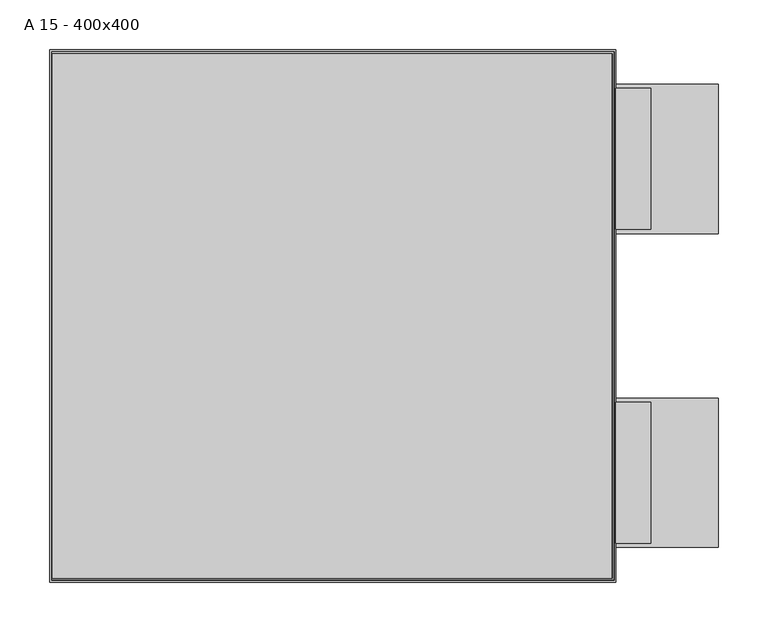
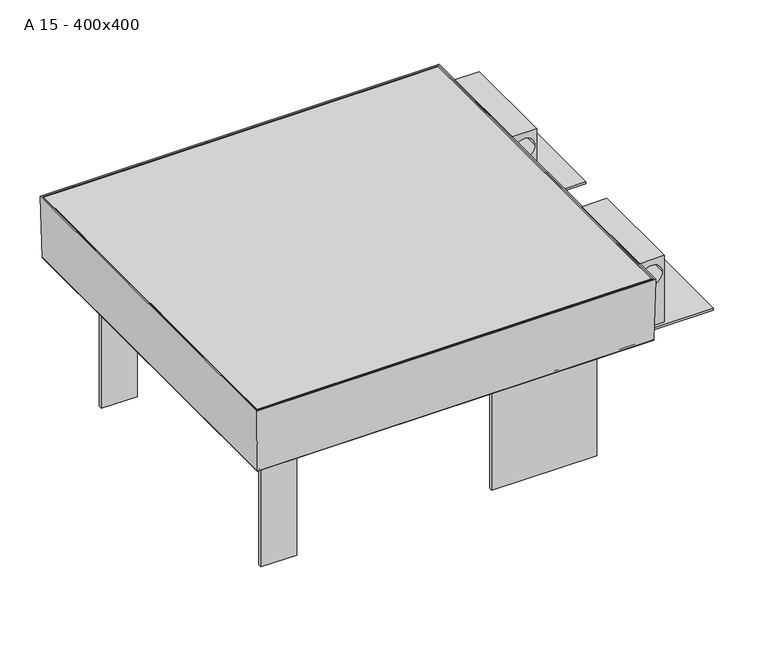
"""IFC4 building model written with IfcOpenShell, lengths in millimetres: proxy geometry, ME_ST_WPB_Access Cover PAVING ASSIST GS 80_ACO : A 15 - 400x400."""

from ifc_helpers import new_model, si_unit, point, frame, frame_2d, origin, place, context, project, spatial, polyline, circle_curve, ellipse_curve, trimmed, segment, composite_curve, outline, extrude, source, transform, mapped, element, save
from ifc_brep_helpers import plane_surface, cylinder_surface, revolved_surface, advanced_brep


def a_15_400x400_4f975222(model_context):
    return source(origin(), model_context, "Body", "SolidModel", [
        extrude(outline(polyline([(238.0, -82.7888671), (388.0, -82.7888671), (388.0, -233.0), (238.0, -233.0), (238.0, -82.7888671)])), frame((0.0, 0.0, -104.0), z_axis=(0.0, 0.0, 1.0), x_axis=(1.0, 0.0, 0.0)), (0.0, 0.0, 1.0), 3.0),
        extrude(outline(polyline([(0.0, 320.0), (0.0, 285.0), (-101.0, 285.0), (-101.0, 320.0), (0.0, 320.0)]), holes=[composite_curve([segment(trimmed(circle_curve(frame_2d((-23.8203371, 302.4245301)), 15.0), [point((-23.8203371, 287.4245301))], [point((-23.8203371, 317.4245301))], True, "CARTESIAN"), True, "CONTINUOUS"), segment(trimmed(circle_curve(frame_2d((-23.8203371, 302.4245301)), 15.0), [point((-23.8203371, 317.4245301))], [point((-23.8203371, 287.4245301))], True, "CARTESIAN"), True, "CONTINUOUS")], self_intersect=False)]), frame((0.0, -228.6519206, 0.0), z_axis=(0.0, 1.0, 0.0), x_axis=(0.0, 0.0, 1.0)), (0.0, 0.0, 1.0), 142.0),
        extrude(outline(polyline([(238.0, 233.0), (388.0, 233.0), (388.0, 82.7888671), (238.0, 82.7888671), (238.0, 233.0)])), frame((0.0, 0.0, -104.0), z_axis=(0.0, 0.0, 1.0), x_axis=(1.0, 0.0, 0.0)), (0.0, 0.0, 1.0), 3.0),
        extrude(outline(polyline([(0.0, 320.0), (0.0, 285.0), (-101.0, 285.0), (-101.0, 320.0), (0.0, 320.0)]), holes=[composite_curve([segment(trimmed(circle_curve(frame_2d((-23.8203371, 302.4245301)), 15.0), [point((-23.8203371, 287.4245301))], [point((-23.8203371, 317.4245301))], True, "CARTESIAN"), True, "CONTINUOUS"), segment(trimmed(circle_curve(frame_2d((-23.8203371, 302.4245301)), 15.0), [point((-23.8203371, 317.4245301))], [point((-23.8203371, 287.4245301))], True, "CARTESIAN"), True, "CONTINUOUS")], self_intersect=False)]), frame((0.0, 87.1369465, 0.0), z_axis=(0.0, 1.0, 0.0), x_axis=(0.0, 0.0, 1.0)), (0.0, 0.0, 1.0), 142.0),
        extrude(outline(polyline([(-190.0, 67.5), (-185.0, 67.5), (-185.0, 2.5), (185.0, 2.5), (185.0, 67.5), (190.0, 67.5), (190.0, -67.5), (185.0, -67.5), (185.0, -2.5), (-185.0, -2.5), (-185.0, -67.5), (-190.0, -67.5), (-190.0, 67.5)])), frame((0.0, 0.0, -134.0), z_axis=(0.0, 0.0, 1.0), x_axis=(1.0, 0.0, 0.0)), (0.0, 0.0, 1.0), 30.0),
        extrude(outline(polyline([(-282.3953955, -208.9987388), (-282.3953955, 208.9987388), (-282.3953955, 263.9987388), (-227.3953955, 263.9987388), (225.9987388, 263.9987388), (280.9987388, 263.9987388), (280.9987388, 208.9987388), (280.9987388, -208.9987388), (280.9987388, -263.9987388), (225.9987388, -263.9987388), (-227.3953955, -263.9987388), (-282.3953955, -263.9987388), (-282.3953955, -208.9987388)])), frame((0.0, 0.0, -5.0), z_axis=(0.0, 0.0, 1.0), x_axis=(1.0, 0.0, 0.0)), (0.0, 0.0, 1.0), 5.0),
        advanced_brep(
        [(-215.5, 198.5, -76.8748363), (-215.5, -198.5, -76.8748363), (215.5, -198.5, -76.8748363), (215.5, 198.5, -76.8748363), (278.9605243, 261.9605243, -80.0), (278.9605243, -261.9605243, -80.0), (-278.9605243, -261.9605243, -80.0), (-278.9605243, 261.9605243, -80.0), (-215.5, 198.5, -77.9987834), (-215.5, -198.5, -77.9987834), (215.5, -198.5, -77.9987834), (215.5, 198.5, -77.9987834), (280.2486912, 263.2486912, -78.7973005), (280.2486912, -263.2486912, -78.7973005), (278.3145448, 261.3145448, -76.8748363), (277.1900014, 260.1900014, -77.9987834), (277.1900014, -260.1900014, -77.9987834), (278.3145448, -261.3145448, -76.8748363), (280.9987388, -263.9987388, 0.0), (280.9987388, 263.9987388, 0.0), (283.0000107, 266.0000107, 0.0), (283.0000107, -266.0000107, 0.0), (-280.2486912, -263.2486912, -78.7973005), (-277.1900014, -260.1900014, -77.9987834), (-278.3145448, -261.3145448, -76.8748363), (-280.9987388, -263.9987388, 0.0), (-283.0000107, -266.0000107, 0.0), (-280.2486912, 263.2486912, -78.7973005), (-277.1900014, 260.1900014, -77.9987834), (-278.3145448, 261.3145448, -76.8748363), (-280.9987388, 263.9987388, 0.0), (-283.0000107, 266.0000107, 0.0)],
        [
            (0, 1),
            (1, 2),
            (2, 3),
            (3, 0),
            (4, 5),
            (5, 6),
            (6, 7),
            (7, 4),
            (0, 8),
            (8, 9),
            (9, 1),
            (9, 10),
            (10, 2),
            (10, 11),
            (11, 3),
            (11, 8),
            (4, 12, ellipse_curve(frame((278.9605243, 261.9605243, -78.7087963), z_axis=(0.7071067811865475, -0.7071067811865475, 0.0), x_axis=(0.7071067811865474, 0.7071067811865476, 0.0)), 1.8260378, 1.2912037)),
            (12, 13),
            (13, 5, ellipse_curve(frame((278.9605243, -261.9605243, -78.7087963), z_axis=(0.7071067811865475, 0.7071067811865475, 0.0), x_axis=(-0.7071067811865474, 0.7071067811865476, 0.0)), 1.8260378, 1.2912037)),
            (14, 15, ellipse_curve(frame((277.0254138, 260.0254138, -76.7095649), z_axis=(-0.7071067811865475, 0.7071067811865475, 0.0), x_axis=(-0.7071067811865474, -0.7071067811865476, 0.0)), 1.838028, 1.2996821)),
            (15, 16),
            (16, 17, ellipse_curve(frame((277.0254138, -260.0254138, -76.7095649), z_axis=(-0.7071067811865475, -0.7071067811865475, 0.0), x_axis=(0.7071067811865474, -0.7071067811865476, 0.0)), 1.838028, 1.2996821)),
            (17, 14),
            (17, 18),
            (18, 19),
            (19, 14),
            (12, 20),
            (20, 21),
            (21, 13),
            (13, 22),
            (22, 6, ellipse_curve(frame((-278.9605243, -261.9605243, -78.7087963), z_axis=(0.7071067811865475, -0.7071067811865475, 0.0), x_axis=(0.7071067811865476, 0.7071067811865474, 0.0)), 1.8260378, 1.2912037)),
            (16, 23),
            (23, 24, ellipse_curve(frame((-277.0254138, -260.0254138, -76.7095649), z_axis=(-0.7071067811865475, 0.7071067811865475, 0.0), x_axis=(-0.7071067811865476, -0.7071067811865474, 0.0)), 1.838028, 1.2996821)),
            (24, 17),
            (24, 25),
            (25, 18),
            (21, 26),
            (26, 22),
            (22, 27),
            (27, 7, ellipse_curve(frame((-278.9605243, 261.9605243, -78.7087963), z_axis=(-0.7071067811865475, -0.7071067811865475, 0.0), x_axis=(0.7071067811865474, -0.7071067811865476, 0.0)), 1.8260378, 1.2912037)),
            (23, 28),
            (28, 29, ellipse_curve(frame((-277.0254138, 260.0254138, -76.7095649), z_axis=(0.7071067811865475, 0.7071067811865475, 0.0), x_axis=(-0.7071067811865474, 0.7071067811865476, 0.0)), 1.838028, 1.2996821)),
            (29, 24),
            (29, 30),
            (30, 25),
            (26, 31),
            (31, 27),
            (27, 12),
            (15, 28),
            (14, 29),
            (19, 30),
            (20, 31),
        ],
        [
            plane_surface(frame((-215.5, -198.5, -76.8748363), z_axis=(0.0, 0.0, 1.0), x_axis=(0.0, -1.0, 0.0))),
            plane_surface(frame((-215.5, -198.5, -80.0), z_axis=(0.0, 0.0, -1.0), x_axis=(0.0, 1.0, 0.0))),
            plane_surface(frame((-215.5, 198.5, -76.8748363), z_axis=(-1.0, 0.0, 0.0), x_axis=(0.0, 0.0, -1.0))),
            plane_surface(frame((-215.5, -198.5, -76.8748363), z_axis=(0.0, -1.0, 0.0), x_axis=(0.0, 0.0, -1.0))),
            plane_surface(frame((215.5, -198.5, -76.8748363), z_axis=(1.0, 0.0, 0.0), x_axis=(0.0, 0.0, -1.0))),
            plane_surface(frame((215.5, 198.5, -76.8748363), z_axis=(0.0, 1.0, 0.0), x_axis=(0.0, 0.0, -1.0))),
            cylinder_surface(frame((278.9605243, 266.0, -78.7087963), z_axis=(0.0, 1.0, 0.0), x_axis=(1.0, 0.0, 0.0)), 1.2912037),
            revolved_surface(polyline([(278.3250959, -261.3250958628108, -76.7095649), (278.3250959, 261.32509586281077, -76.7095649)]), (277.0254138, 266.0, -76.7095649), (0.0, -1.0, 0.0)),
            plane_surface(frame((278.3145448, 261.3145448, -76.8748363), z_axis=(-0.9993909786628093, 0.0, 0.03489515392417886), x_axis=(0.0, -1.0, 0.0))),
            plane_surface(frame((283.0000107, 266.0000107, 0.0), z_axis=(0.9993909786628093, 0.0, -0.03489515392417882), x_axis=(0.0, -1.0, 0.0))),
            cylinder_surface(frame((283.0, -261.9605243, -78.7087963), z_axis=(1.0, 0.0, 0.0), x_axis=(0.0, -1.0, 0.0)), 1.2912037),
            revolved_surface(polyline([(-278.3250958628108, -261.3250959, -76.7095649), (278.32509586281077, -261.3250959, -76.7095649)]), (283.0, -260.0254138, -76.7095649), (-1.0, 0.0, 0.0)),
            plane_surface(frame((278.3145448, -261.3145448, -76.8748363), z_axis=(0.0, 0.9993909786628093, 0.03489515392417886), x_axis=(-1.0, 0.0, 0.0))),
            plane_surface(frame((283.0000107, -266.0000107, 0.0), z_axis=(0.0, -0.9993909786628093, -0.03489515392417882), x_axis=(-1.0, 0.0, 0.0))),
            cylinder_surface(frame((-278.9605243, -266.0, -78.7087963), z_axis=(0.0, -1.0, 0.0), x_axis=(-1.0, 0.0, 0.0)), 1.2912037),
            revolved_surface(polyline([(-278.3250959, 261.3250958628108, -76.7095649), (-278.3250959, -261.32509586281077, -76.7095649)]), (-277.0254138, -266.0, -76.7095649), (0.0, 1.0, 0.0)),
            plane_surface(frame((-278.3145448, -261.3145448, -76.8748363), z_axis=(0.9993909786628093, 0.0, 0.03489515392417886), x_axis=(0.0, 1.0, 0.0))),
            plane_surface(frame((-283.0000107, -266.0000107, 0.0), z_axis=(-0.9993909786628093, 0.0, -0.03489515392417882), x_axis=(0.0, 1.0, 0.0))),
            cylinder_surface(frame((-283.0, 261.9605243, -78.7087963), z_axis=(-1.0, 0.0, 0.0), x_axis=(0.0, 1.0, 0.0)), 1.2912037),
            plane_surface(frame((-247.6109139, 230.6109139, -77.9987834), z_axis=(0.0, 0.0, 1.0), x_axis=(1.0, 0.0, 0.0))),
            revolved_surface(polyline([(278.3250958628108, 261.3250959, -76.7095649), (-278.32509586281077, 261.3250959, -76.7095649)]), (-283.0, 260.0254138, -76.7095649), (1.0, 0.0, 0.0)),
            plane_surface(frame((-278.3145448, 261.3145448, -76.8748363), z_axis=(0.0, -0.9993909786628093, 0.03489515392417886), x_axis=(1.0, 0.0, 0.0))),
            plane_surface(frame((-280.9987388, 263.9987388, 0.0), z_axis=(0.0, 0.0, 1.0), x_axis=(1.0, 0.0, 0.0))),
            plane_surface(frame((-283.0000107, 266.0000107, 0.0), z_axis=(0.0, 0.9993909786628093, -0.03489515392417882), x_axis=(1.0, 0.0, 0.0))),
        ],
        [
            (0, [[1, 2, 3, 4]]),
            (1, [[5, 6, 7, 8]]),
            (2, [[-1, 9, 10, 11]]),
            (3, [[-2, -11, 12, 13]]),
            (4, [[-3, -13, 14, 15]]),
            (5, [[-4, -15, 16, -9]]),
            (6, [[17, 18, 19, -5]]),
            (7, [[20, 21, 22, 23]]),
            (8, [[-23, 24, 25, 26]]),
            (9, [[-18, 27, 28, 29]]),
            (10, [[-19, 30, 31, -6]]),
            (11, [[-22, 32, 33, 34]]),
            (12, [[-24, -34, 35, 36]]),
            (13, [[-29, 37, 38, -30]]),
            (14, [[-31, 39, 40, -7]]),
            (15, [[-33, 41, 42, 43]]),
            (16, [[-35, -43, 44, 45]]),
            (17, [[-38, 46, 47, -39]]),
            (18, [[-17, -8, -40, 48]]),
            (19, [[-21, 49, -41, -32], [-10, -16, -14, -12]]),
            (20, [[-20, 50, -42, -49]]),
            (21, [[-26, 51, -44, -50]]),
            (22, [[-28, 52, -46, -37], [-25, -36, -45, -51]]),
            (23, [[-27, -48, -47, -52]]),
        ],
    ),
        advanced_brep(
        [(282.0603915, 265.0603915, -93.0), (283.3814929, 266.3814929, -91.7973005), (283.3814929, -266.3814929, -91.7973005), (282.0603915, -265.0603915, -93.0), (249.491936, 232.491936, -93.5068236), (250.3495131, 233.3495131, -93.0), (250.3495131, -233.3495131, -93.0), (249.491936, -232.491936, -93.5068236), (239.5430631, 222.5430631, -103.4568727), (239.5430631, -222.5430631, -103.4568727), (238.5631773, 221.5631773, -104.0), (238.5631773, -221.5631773, -104.0), (217.0, 200.0, -102.0), (219.0, 202.0, -104.0), (219.0, -202.0, -104.0), (217.0, -200.0, -102.0), (217.0, 200.0, -91.0), (217.0, -200.0, -91.0), (219.0, 202.0, -91.0), (219.0, -202.0, -91.0), (219.0, -202.0, -100.1412819), (219.0, 202.0, -100.1412819), (220.5596496, 203.5596496, -102.0), (220.5596496, -203.5596496, -102.0), (238.6238392, 221.6238392, -101.5476755), (237.8710448, 220.8710448, -102.0), (237.8710448, -220.8710448, -102.0), (238.6238392, -221.6238392, -101.5476755), (248.7056833, 231.7056833, -91.4646396), (248.7056833, -231.7056833, -91.4646396), (249.6109139, 232.6109139, -90.9987834), (249.6109139, -232.6109139, -90.9987834), (281.414412, 264.414412, -89.9085487), (280.2898686, 263.2898686, -90.9987834), (280.2898686, -263.2898686, -90.9987834), (281.414412, -264.414412, -89.9085487), (282.9987388, 265.9987388, 0.0), (282.9987388, -265.9987388, 0.0), (284.9991024, 267.9991024, 0.0), (284.9991024, -267.9991024, 0.0), (-283.3814929, -266.3814929, -91.7973005), (-282.0603915, -265.0603915, -93.0), (-250.3495131, -233.3495131, -93.0), (-249.491936, -232.491936, -93.5068236), (-239.5430631, -222.5430631, -103.4568727), (-238.5631773, -221.5631773, -104.0), (-219.0, -202.0, -104.0), (-217.0, -200.0, -102.0), (-217.0, -200.0, -91.0), (-219.0, -202.0, -91.0), (-219.0, -202.0, -100.1412819), (-220.5596496, -203.5596496, -102.0), (-237.8710448, -220.8710448, -102.0), (-238.6238392, -221.6238392, -101.5476755), (-248.7056833, -231.7056833, -91.4646396), (-249.6109139, -232.6109139, -90.9987834), (-280.2898686, -263.2898686, -90.9987834), (-281.414412, -264.414412, -89.9085487), (-282.9987388, -265.9987388, 0.0), (-284.9991024, -267.9991024, 0.0), (-283.3814929, 266.3814929, -91.7973005), (-282.0603915, 265.0603915, -93.0), (-250.3495131, 233.3495131, -93.0), (-249.491936, 232.491936, -93.5068236), (-239.5430631, 222.5430631, -103.4568727), (-238.5631773, 221.5631773, -104.0), (-219.0, 202.0, -104.0), (-217.0, 200.0, -102.0), (-217.0, 200.0, -91.0), (-219.0, 202.0, -91.0), (-219.0, 202.0, -100.1412819), (-220.5596496, 203.5596496, -102.0), (-237.8710448, 220.8710448, -102.0), (-238.6238392, 221.6238392, -101.5476755), (-248.7056833, 231.7056833, -91.4646396), (-249.6109139, 232.6109139, -90.9987834), (-280.2898686, 263.2898686, -90.9987834), (-281.414412, 264.414412, -89.9085487), (-282.9987388, 265.9987388, 0.0), (-284.9991024, 267.9991024, 0.0)],
        [
            (0, 1, ellipse_curve(frame((282.0603915, 265.0603915, -91.6730704), z_axis=(0.7071067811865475, -0.7071067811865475, 0.0), x_axis=(0.7071067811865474, 0.7071067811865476, 0.0)), 1.8765619, 1.3269296)),
            (1, 2),
            (2, 3, ellipse_curve(frame((282.0603915, -265.0603915, -91.6730704), z_axis=(0.7071067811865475, 0.7071067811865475, 0.0), x_axis=(-0.7071067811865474, 0.7071067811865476, 0.0)), 1.8765619, 1.3269296)),
            (3, 0),
            (4, 5, ellipse_curve(frame((250.9062332, 233.9062332, -94.9209536), z_axis=(-0.7071067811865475, 0.7071067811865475, 0.0), x_axis=(-0.7071067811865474, -0.7071067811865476, 0.0)), 2.8284271, 2.0)),
            (5, 6),
            (6, 7, ellipse_curve(frame((250.9062332, -233.9062332, -94.9209536), z_axis=(-0.7071067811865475, -0.7071067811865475, 0.0), x_axis=(0.7071067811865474, -0.7071067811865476, 0.0)), 2.8284271, 2.0)),
            (7, 4),
            (8, 4),
            (7, 9),
            (9, 8),
            (10, 8, ellipse_curve(frame((237.0169048, 220.0169048, -100.0547885), z_axis=(0.7071067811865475, -0.7071067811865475, 0.0), x_axis=(0.7071067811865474, 0.7071067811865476, 0.0)), 5.9926042, 4.237411)),
            (9, 11, ellipse_curve(frame((237.0169048, -220.0169048, -100.0547885), z_axis=(0.7071067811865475, 0.7071067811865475, 0.0), x_axis=(-0.7071067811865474, 0.7071067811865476, 0.0)), 5.9926042, 4.237411)),
            (11, 10),
            (12, 13, ellipse_curve(frame((220.5491099, 203.5491099, -100.4508901), z_axis=(0.7071067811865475, -0.7071067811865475, 0.0), x_axis=(0.7071067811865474, 0.7071067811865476, 0.0)), 5.4764811, 3.872457)),
            (13, 14),
            (14, 15, ellipse_curve(frame((220.5491099, -203.5491099, -100.4508901), z_axis=(0.7071067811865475, 0.7071067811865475, 0.0), x_axis=(-0.7071067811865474, 0.7071067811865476, 0.0)), 5.4764811, 3.872457)),
            (15, 12),
            (16, 12),
            (15, 17),
            (17, 16),
            (18, 19),
            (19, 20),
            (20, 21),
            (21, 18),
            (22, 21, ellipse_curve(frame((220.9978512, 203.9978512, -100.0485955), z_axis=(-0.7071067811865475, 0.7071067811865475, 0.0), x_axis=(-0.7071067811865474, -0.7071067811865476, 0.0)), 2.8284271, 2.0)),
            (20, 23, ellipse_curve(frame((220.9978512, -203.9978512, -100.0485955), z_axis=(-0.7071067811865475, -0.7071067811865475, 0.0), x_axis=(0.7071067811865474, -0.7071067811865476, 0.0)), 2.8284271, 2.0)),
            (23, 22),
            (24, 25, ellipse_curve(frame((237.2425005, 220.2425005, -100.1013342), z_axis=(-0.7071067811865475, 0.7071067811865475, 0.0), x_axis=(-0.7071067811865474, -0.7071067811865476, 0.0)), 2.8284271, 2.0)),
            (25, 26),
            (26, 27, ellipse_curve(frame((237.2425005, -220.2425005, -100.1013342), z_axis=(-0.7071067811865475, -0.7071067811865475, 0.0), x_axis=(0.7071067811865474, -0.7071067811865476, 0.0)), 2.8284271, 2.0)),
            (27, 24),
            (28, 24),
            (27, 29),
            (29, 28),
            (30, 28, ellipse_curve(frame((249.9486156, 232.9486156, -92.7674195), z_axis=(0.7071067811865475, -0.7071067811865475, 0.0), x_axis=(0.7071067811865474, 0.7071067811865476, 0.0)), 2.5464155, 1.8005877)),
            (29, 31, ellipse_curve(frame((249.9486156, -232.9486156, -92.7674195), z_axis=(0.7071067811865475, 0.7071067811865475, 0.0), x_axis=(-0.7071067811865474, 0.7071067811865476, 0.0)), 2.5464155, 1.8005877)),
            (31, 30),
            (32, 33, ellipse_curve(frame((280.125281, 263.125281, -89.7039331), z_axis=(-0.7071067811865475, 0.7071067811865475, 0.0), x_axis=(-0.7071067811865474, -0.7071067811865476, 0.0)), 1.8459287, 1.3052687)),
            (33, 34),
            (34, 35, ellipse_curve(frame((280.125281, -263.125281, -89.7039331), z_axis=(-0.7071067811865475, -0.7071067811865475, 0.0), x_axis=(0.7071067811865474, -0.7071067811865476, 0.0)), 1.8459287, 1.3052687)),
            (35, 32),
            (36, 32),
            (35, 37),
            (37, 36),
            (1, 38),
            (38, 39),
            (39, 2),
            (2, 40),
            (40, 41, ellipse_curve(frame((-282.0603915, -265.0603915, -91.6730704), z_axis=(0.7071067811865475, -0.7071067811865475, 0.0), x_axis=(0.7071067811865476, 0.7071067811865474, 0.0)), 1.8765619, 1.3269296)),
            (41, 3),
            (6, 42),
            (42, 43, ellipse_curve(frame((-250.9062332, -233.9062332, -94.9209536), z_axis=(-0.7071067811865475, 0.7071067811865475, 0.0), x_axis=(-0.7071067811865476, -0.7071067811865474, 0.0)), 2.8284271, 2.0)),
            (43, 7),
            (43, 44),
            (44, 9),
            (44, 45, ellipse_curve(frame((-237.0169048, -220.0169048, -100.0547885), z_axis=(0.7071067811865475, -0.7071067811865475, 0.0), x_axis=(0.7071067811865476, 0.7071067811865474, 0.0)), 5.9926042, 4.237411)),
            (45, 11),
            (14, 46),
            (46, 47, ellipse_curve(frame((-220.5491099, -203.5491099, -100.4508901), z_axis=(0.7071067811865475, -0.7071067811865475, 0.0), x_axis=(0.7071067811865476, 0.7071067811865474, 0.0)), 5.4764811, 3.872457)),
            (47, 15),
            (47, 48),
            (48, 17),
            (19, 49),
            (49, 50),
            (50, 20),
            (50, 51, ellipse_curve(frame((-220.9978512, -203.9978512, -100.0485955), z_axis=(-0.7071067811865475, 0.7071067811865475, 0.0), x_axis=(-0.7071067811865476, -0.7071067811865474, 0.0)), 2.8284271, 2.0)),
            (51, 23),
            (26, 52),
            (52, 53, ellipse_curve(frame((-237.2425005, -220.2425005, -100.1013342), z_axis=(-0.7071067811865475, 0.7071067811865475, 0.0), x_axis=(-0.7071067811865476, -0.7071067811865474, 0.0)), 2.8284271, 2.0)),
            (53, 27),
            (53, 54),
            (54, 29),
            (54, 55, ellipse_curve(frame((-249.9486156, -232.9486156, -92.7674195), z_axis=(0.7071067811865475, -0.7071067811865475, 0.0), x_axis=(0.7071067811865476, 0.7071067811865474, 0.0)), 2.5464155, 1.8005877)),
            (55, 31),
            (34, 56),
            (56, 57, ellipse_curve(frame((-280.125281, -263.125281, -89.7039331), z_axis=(-0.7071067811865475, 0.7071067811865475, 0.0), x_axis=(-0.7071067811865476, -0.7071067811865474, 0.0)), 1.8459287, 1.3052687)),
            (57, 35),
            (57, 58),
            (58, 37),
            (39, 59),
            (59, 40),
            (40, 60),
            (60, 61, ellipse_curve(frame((-282.0603915, 265.0603915, -91.6730704), z_axis=(-0.7071067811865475, -0.7071067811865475, 0.0), x_axis=(0.7071067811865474, -0.7071067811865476, 0.0)), 1.8765619, 1.3269296)),
            (61, 41),
            (42, 62),
            (62, 63, ellipse_curve(frame((-250.9062332, 233.9062332, -94.9209536), z_axis=(0.7071067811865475, 0.7071067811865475, 0.0), x_axis=(-0.7071067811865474, 0.7071067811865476, 0.0)), 2.8284271, 2.0)),
            (63, 43),
            (63, 64),
            (64, 44),
            (64, 65, ellipse_curve(frame((-237.0169048, 220.0169048, -100.0547885), z_axis=(-0.7071067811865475, -0.7071067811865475, 0.0), x_axis=(0.7071067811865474, -0.7071067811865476, 0.0)), 5.9926042, 4.237411)),
            (65, 45),
            (46, 66),
            (66, 67, ellipse_curve(frame((-220.5491099, 203.5491099, -100.4508901), z_axis=(-0.7071067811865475, -0.7071067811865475, 0.0), x_axis=(0.7071067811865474, -0.7071067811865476, 0.0)), 5.4764811, 3.872457)),
            (67, 47),
            (67, 68),
            (68, 48),
            (49, 69),
            (69, 70),
            (70, 50),
            (70, 71, ellipse_curve(frame((-220.9978512, 203.9978512, -100.0485955), z_axis=(0.7071067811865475, 0.7071067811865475, 0.0), x_axis=(-0.7071067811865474, 0.7071067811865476, 0.0)), 2.8284271, 2.0)),
            (71, 51),
            (52, 72),
            (72, 73, ellipse_curve(frame((-237.2425005, 220.2425005, -100.1013342), z_axis=(0.7071067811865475, 0.7071067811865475, 0.0), x_axis=(-0.7071067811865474, 0.7071067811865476, 0.0)), 2.8284271, 2.0)),
            (73, 53),
            (73, 74),
            (74, 54),
            (74, 75, ellipse_curve(frame((-249.9486156, 232.9486156, -92.7674195), z_axis=(-0.7071067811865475, -0.7071067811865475, 0.0), x_axis=(0.7071067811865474, -0.7071067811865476, 0.0)), 2.5464155, 1.8005877)),
            (75, 55),
            (56, 76),
            (76, 77, ellipse_curve(frame((-280.125281, 263.125281, -89.7039331), z_axis=(0.7071067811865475, 0.7071067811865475, 0.0), x_axis=(-0.7071067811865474, 0.7071067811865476, 0.0)), 1.8459287, 1.3052687)),
            (77, 57),
            (77, 78),
            (78, 58),
            (59, 79),
            (79, 60),
            (60, 1),
            (0, 61),
            (5, 62),
            (4, 63),
            (8, 64),
            (10, 65),
            (13, 66),
            (12, 67),
            (16, 68),
            (18, 69),
            (21, 70),
            (22, 71),
            (25, 72),
            (24, 73),
            (28, 74),
            (30, 75),
            (33, 76),
            (32, 77),
            (36, 78),
            (38, 79),
        ],
        [
            cylinder_surface(frame((282.0603915, 268.0, -91.6730704), z_axis=(0.0, 1.0, 0.0), x_axis=(1.0, 0.0, 0.0)), 1.3269296),
            revolved_surface(polyline([(252.9062332, -235.90623318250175, -94.9209536), (252.9062332, 235.9062331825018, -94.9209536)]), (250.9062332, 268.0, -94.9209536), (0.0, -1.0, 0.0)),
            plane_surface(frame((249.491936, 232.491936, -93.5068236), z_axis=(0.7071485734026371, 0.0, -0.7070649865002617), x_axis=(0.0, -1.0, 0.0))),
            cylinder_surface(frame((237.0169048, 268.0, -100.0547885), z_axis=(0.0, 1.0, 0.0), x_axis=(1.0, 0.0, 0.0)), 4.237411),
            cylinder_surface(frame((220.5491099, 268.0, -100.4508901), z_axis=(0.0, 1.0, 0.0), x_axis=(1.0, 0.0, 0.0)), 3.872457),
            plane_surface(frame((217.0, 200.0, -102.0), z_axis=(-1.0, 0.0, 0.0), x_axis=(0.0, -1.0, 0.0))),
            plane_surface(frame((219.0, 202.0, -93.0), z_axis=(1.0, 0.0, 0.0), x_axis=(0.0, -1.0, 0.0))),
            revolved_surface(polyline([(222.9978512, -205.9978511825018, -100.0485955), (222.9978512, 205.99785118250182, -100.0485955)]), (220.9978512, 268.0, -100.0485955), (0.0, -1.0, 0.0)),
            revolved_surface(polyline([(239.2425005, -222.24250048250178, -100.1013342), (239.2425005, 222.2425004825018, -100.1013342)]), (237.2425005, 268.0, -100.1013342), (0.0, -1.0, 0.0)),
            plane_surface(frame((238.6238392, 221.6238392, -101.5476755), z_axis=(-0.7071485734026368, 0.0, 0.707064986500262), x_axis=(0.0, -1.0, 0.0))),
            cylinder_surface(frame((249.9486156, 268.0, -92.7674195), z_axis=(0.0, 1.0, 0.0), x_axis=(1.0, 0.0, 0.0)), 1.8005877),
            revolved_surface(polyline([(281.4305497, -264.4305497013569, -89.7039331), (281.4305497, 264.4305497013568, -89.7039331)]), (280.125281, 268.0, -89.7039331), (0.0, -1.0, 0.0)),
            plane_surface(frame((281.414412, 264.414412, -89.9085487), z_axis=(-0.9998447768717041, 0.0, 0.017618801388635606), x_axis=(0.0, -1.0, 0.0))),
            plane_surface(frame((284.9991024, 267.9991024, 0.0), z_axis=(0.9998447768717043, 0.0, -0.017618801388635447), x_axis=(0.0, -1.0, 0.0))),
            cylinder_surface(frame((285.0, -265.0603915, -91.6730704), z_axis=(1.0, 0.0, 0.0), x_axis=(0.0, -1.0, 0.0)), 1.3269296),
            revolved_surface(polyline([(-252.90623318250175, -235.9062332, -94.9209536), (252.9062331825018, -235.9062332, -94.9209536)]), (285.0, -233.9062332, -94.9209536), (-1.0, 0.0, 0.0)),
            plane_surface(frame((249.491936, -232.491936, -93.5068236), z_axis=(0.0, -0.7071485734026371, -0.7070649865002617), x_axis=(-1.0, 0.0, 0.0))),
            cylinder_surface(frame((285.0, -220.0169048, -100.0547885), z_axis=(1.0, 0.0, 0.0), x_axis=(0.0, -1.0, 0.0)), 4.237411),
            cylinder_surface(frame((285.0, -203.5491099, -100.4508901), z_axis=(1.0, 0.0, 0.0), x_axis=(0.0, -1.0, 0.0)), 3.872457),
            plane_surface(frame((217.0, -200.0, -102.0), z_axis=(0.0, 1.0, 0.0), x_axis=(-1.0, 0.0, 0.0))),
            plane_surface(frame((219.0, -202.0, -93.0), z_axis=(0.0, -1.0, 0.0), x_axis=(-1.0, 0.0, 0.0))),
            revolved_surface(polyline([(-222.9978511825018, -205.9978512, -100.0485955), (222.99785118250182, -205.9978512, -100.0485955)]), (285.0, -203.9978512, -100.0485955), (-1.0, 0.0, 0.0)),
            revolved_surface(polyline([(-239.24250048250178, -222.2425005, -100.1013342), (239.2425004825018, -222.2425005, -100.1013342)]), (285.0, -220.2425005, -100.1013342), (-1.0, 0.0, 0.0)),
            plane_surface(frame((238.6238392, -221.6238392, -101.5476755), z_axis=(0.0, 0.7071485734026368, 0.707064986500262), x_axis=(-1.0, 0.0, 0.0))),
            cylinder_surface(frame((285.0, -232.9486156, -92.7674195), z_axis=(1.0, 0.0, 0.0), x_axis=(0.0, -1.0, 0.0)), 1.8005877),
            revolved_surface(polyline([(-281.4305497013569, -264.4305497, -89.7039331), (281.4305497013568, -264.4305497, -89.7039331)]), (285.0, -263.125281, -89.7039331), (-1.0, 0.0, 0.0)),
            plane_surface(frame((281.414412, -264.414412, -89.9085487), z_axis=(0.0, 0.9998447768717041, 0.017618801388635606), x_axis=(-1.0, 0.0, 0.0))),
            plane_surface(frame((284.9991024, -267.9991024, 0.0), z_axis=(0.0, -0.9998447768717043, -0.017618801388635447), x_axis=(-1.0, 0.0, 0.0))),
            cylinder_surface(frame((-282.0603915, -268.0, -91.6730704), z_axis=(0.0, -1.0, 0.0), x_axis=(-1.0, 0.0, 0.0)), 1.3269296),
            revolved_surface(polyline([(-252.9062332, 235.90623318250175, -94.9209536), (-252.9062332, -235.9062331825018, -94.9209536)]), (-250.9062332, -268.0, -94.9209536), (0.0, 1.0, 0.0)),
            plane_surface(frame((-249.491936, -232.491936, -93.5068236), z_axis=(-0.7071485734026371, 0.0, -0.7070649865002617), x_axis=(0.0, 1.0, 0.0))),
            cylinder_surface(frame((-237.0169048, -268.0, -100.0547885), z_axis=(0.0, -1.0, 0.0), x_axis=(-1.0, 0.0, 0.0)), 4.237411),
            cylinder_surface(frame((-220.5491099, -268.0, -100.4508901), z_axis=(0.0, -1.0, 0.0), x_axis=(-1.0, 0.0, 0.0)), 3.872457),
            plane_surface(frame((-217.0, -200.0, -102.0), z_axis=(1.0, 0.0, 0.0), x_axis=(0.0, 1.0, 0.0))),
            plane_surface(frame((-219.0, -202.0, -93.0), z_axis=(-1.0, 0.0, 0.0), x_axis=(0.0, 1.0, 0.0))),
            revolved_surface(polyline([(-222.9978512, 205.9978511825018, -100.0485955), (-222.9978512, -205.99785118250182, -100.0485955)]), (-220.9978512, -268.0, -100.0485955), (0.0, 1.0, 0.0)),
            revolved_surface(polyline([(-239.2425005, 222.24250048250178, -100.1013342), (-239.2425005, -222.2425004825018, -100.1013342)]), (-237.2425005, -268.0, -100.1013342), (0.0, 1.0, 0.0)),
            plane_surface(frame((-238.6238392, -221.6238392, -101.5476755), z_axis=(0.7071485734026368, 0.0, 0.707064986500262), x_axis=(0.0, 1.0, 0.0))),
            cylinder_surface(frame((-249.9486156, -268.0, -92.7674195), z_axis=(0.0, -1.0, 0.0), x_axis=(-1.0, 0.0, 0.0)), 1.8005877),
            revolved_surface(polyline([(-281.4305497, 264.4305497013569, -89.7039331), (-281.4305497, -264.4305497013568, -89.7039331)]), (-280.125281, -268.0, -89.7039331), (0.0, 1.0, 0.0)),
            plane_surface(frame((-281.414412, -264.414412, -89.9085487), z_axis=(0.9998447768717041, 0.0, 0.017618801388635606), x_axis=(0.0, 1.0, 0.0))),
            plane_surface(frame((-284.9991024, -267.9991024, 0.0), z_axis=(-0.9998447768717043, 0.0, -0.017618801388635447), x_axis=(0.0, 1.0, 0.0))),
            cylinder_surface(frame((-285.0, 265.0603915, -91.6730704), z_axis=(-1.0, 0.0, 0.0), x_axis=(0.0, 1.0, 0.0)), 1.3269296),
            plane_surface(frame((-282.0603915, 265.0603915, -93.0), z_axis=(0.0, 0.0, -1.0), x_axis=(1.0, 0.0, 0.0))),
            revolved_surface(polyline([(252.90623318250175, 235.9062332, -94.9209536), (-252.9062331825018, 235.9062332, -94.9209536)]), (-285.0, 233.9062332, -94.9209536), (1.0, 0.0, 0.0)),
            plane_surface(frame((-249.491936, 232.491936, -93.5068236), z_axis=(0.0, 0.7071485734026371, -0.7070649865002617), x_axis=(1.0, 0.0, 0.0))),
            cylinder_surface(frame((-285.0, 220.0169048, -100.0547885), z_axis=(-1.0, 0.0, 0.0), x_axis=(0.0, 1.0, 0.0)), 4.237411),
            plane_surface(frame((-238.5631773, 221.5631773, -104.0), z_axis=(0.0, 0.0, -1.0), x_axis=(1.0, 0.0, 0.0))),
            cylinder_surface(frame((-285.0, 203.5491099, -100.4508901), z_axis=(-1.0, 0.0, 0.0), x_axis=(0.0, 1.0, 0.0)), 3.872457),
            plane_surface(frame((-217.0, 200.0, -102.0), z_axis=(0.0, -1.0, 0.0), x_axis=(1.0, 0.0, 0.0))),
            plane_surface(frame((-217.0, 200.0, -91.0), z_axis=(0.0, 0.0, 1.0), x_axis=(1.0, 0.0, 0.0))),
            plane_surface(frame((-219.0, 202.0, -93.0), z_axis=(0.0, 1.0, 0.0), x_axis=(1.0, 0.0, 0.0))),
            revolved_surface(polyline([(222.9978511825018, 205.9978512, -100.0485955), (-222.99785118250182, 205.9978512, -100.0485955)]), (-285.0, 203.9978512, -100.0485955), (1.0, 0.0, 0.0)),
            plane_surface(frame((-220.5596496, 203.5596496, -102.0), z_axis=(0.0, 0.0, 1.0), x_axis=(1.0, 0.0, 0.0))),
            revolved_surface(polyline([(239.24250048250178, 222.2425005, -100.1013342), (-239.2425004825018, 222.2425005, -100.1013342)]), (-285.0, 220.2425005, -100.1013342), (1.0, 0.0, 0.0)),
            plane_surface(frame((-238.6238392, 221.6238392, -101.5476755), z_axis=(0.0, -0.7071485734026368, 0.707064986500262), x_axis=(1.0, 0.0, 0.0))),
            cylinder_surface(frame((-285.0, 232.9486156, -92.7674195), z_axis=(-1.0, 0.0, 0.0), x_axis=(0.0, 1.0, 0.0)), 1.8005877),
            plane_surface(frame((-249.6109139, 232.6109139, -90.9987834), z_axis=(0.0, 0.0, 1.0), x_axis=(1.0, 0.0, 0.0))),
            revolved_surface(polyline([(281.4305497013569, 264.4305497, -89.7039331), (-281.4305497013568, 264.4305497, -89.7039331)]), (-285.0, 263.125281, -89.7039331), (1.0, 0.0, 0.0)),
            plane_surface(frame((-281.414412, 264.414412, -89.9085487), z_axis=(0.0, -0.9998447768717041, 0.017618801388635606), x_axis=(1.0, 0.0, 0.0))),
            plane_surface(frame((-282.9987388, 265.9987388, 0.0), z_axis=(0.0, 0.0, 1.0), x_axis=(1.0, 0.0, 0.0))),
            plane_surface(frame((-284.9991024, 267.9991024, 0.0), z_axis=(0.0, 0.9998447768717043, -0.017618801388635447), x_axis=(1.0, 0.0, 0.0))),
        ],
        [
            (0, [[1, 2, 3, 4]]),
            (1, [[5, 6, 7, 8]]),
            (2, [[9, -8, 10, 11]]),
            (3, [[12, -11, 13, 14]]),
            (4, [[15, 16, 17, 18]]),
            (5, [[19, -18, 20, 21]]),
            (6, [[22, 23, 24, 25]]),
            (7, [[26, -24, 27, 28]]),
            (8, [[29, 30, 31, 32]]),
            (9, [[33, -32, 34, 35]]),
            (10, [[36, -35, 37, 38]]),
            (11, [[39, 40, 41, 42]]),
            (12, [[43, -42, 44, 45]]),
            (13, [[46, 47, 48, -2]]),
            (14, [[-3, 49, 50, 51]]),
            (15, [[-7, 52, 53, 54]]),
            (16, [[-10, -54, 55, 56]]),
            (17, [[-13, -56, 57, 58]]),
            (18, [[-17, 59, 60, 61]]),
            (19, [[-20, -61, 62, 63]]),
            (20, [[-23, 64, 65, 66]]),
            (21, [[-27, -66, 67, 68]]),
            (22, [[-31, 69, 70, 71]]),
            (23, [[-34, -71, 72, 73]]),
            (24, [[-37, -73, 74, 75]]),
            (25, [[-41, 76, 77, 78]]),
            (26, [[-44, -78, 79, 80]]),
            (27, [[-48, 81, 82, -49]]),
            (28, [[-50, 83, 84, 85]]),
            (29, [[-53, 86, 87, 88]]),
            (30, [[-55, -88, 89, 90]]),
            (31, [[-57, -90, 91, 92]]),
            (32, [[-60, 93, 94, 95]]),
            (33, [[-62, -95, 96, 97]]),
            (34, [[-65, 98, 99, 100]]),
            (35, [[-67, -100, 101, 102]]),
            (36, [[-70, 103, 104, 105]]),
            (37, [[-72, -105, 106, 107]]),
            (38, [[-74, -107, 108, 109]]),
            (39, [[-77, 110, 111, 112]]),
            (40, [[-79, -112, 113, 114]]),
            (41, [[-82, 115, 116, -83]]),
            (42, [[-84, 117, -1, 118]]),
            (43, [[-51, -85, -118, -4], [119, -86, -52, -6]]),
            (44, [[-87, -119, -5, 120]]),
            (45, [[-89, -120, -9, 121]]),
            (46, [[-91, -121, -12, 122]]),
            (47, [[-58, -92, -122, -14], [123, -93, -59, -16]]),
            (48, [[-94, -123, -15, 124]]),
            (49, [[-96, -124, -19, 125]]),
            (50, [[126, -98, -64, -22], [-63, -97, -125, -21]]),
            (51, [[-99, -126, -25, 127]]),
            (52, [[-101, -127, -26, 128]]),
            (53, [[129, -103, -69, -30], [-68, -102, -128, -28]]),
            (54, [[-104, -129, -29, 130]]),
            (55, [[-106, -130, -33, 131]]),
            (56, [[-108, -131, -36, 132]]),
            (57, [[133, -110, -76, -40], [-75, -109, -132, -38]]),
            (58, [[-111, -133, -39, 134]]),
            (59, [[-113, -134, -43, 135]]),
            (60, [[136, -115, -81, -47], [-80, -114, -135, -45]]),
            (61, [[-116, -136, -46, -117]]),
        ],
    ),
        extrude(outline(polyline([(-189.0, -195.0), (-189.0, -200.0), (-240.0, -200.0), (-240.0, -195.0), (-189.0, -195.0)])), frame((0.0, 0.0, -292.0), z_axis=(0.0, 0.0, 1.0), x_axis=(1.0, 0.0, 0.0)), (0.0, 0.0, 1.0), 188.0),
        extrude(outline(polyline([(-189.0, 200.0), (-189.0, 195.0), (-240.0, 195.0), (-240.0, 200.0), (-189.0, 200.0)])), frame((0.0, 0.0, -292.0), z_axis=(0.0, 0.0, 1.0), x_axis=(1.0, 0.0, 0.0)), (0.0, 0.0, 1.0), 188.0),
        extrude(outline(polyline([(240.0, 195.0), (90.0, 195.0), (90.0, 200.0), (240.0, 200.0), (240.0, 195.0)])), frame((0.0, 0.0, -292.0), z_axis=(0.0, 0.0, 1.0), x_axis=(1.0, 0.0, 0.0)), (0.0, 0.0, 1.0), 188.0),
        extrude(outline(polyline([(240.0, -195.0), (240.0, -200.0), (90.0, -200.0), (90.0, -195.0), (240.0, -195.0)])), frame((0.0, 0.0, -292.0), z_axis=(0.0, 0.0, 1.0), x_axis=(1.0, 0.0, 0.0)), (0.0, 0.0, 1.0), 188.0),
    ])


if __name__ == "__main__":
    model = new_model("IFC4")
    model_context = context("Model", 3, world=origin())
    ifc_project = project(units=[si_unit("LENGTHUNIT", "METRE", prefix="MILLI")], contexts=[model_context])
    site = spatial("IfcSite", under=ifc_project)
    building = spatial("IfcBuilding", under=site)
    placement = place(None, origin())
    a_15_400x400_shape = a_15_400x400_4f975222(model_context)
    element("IfcBuildingElementProxy", 1, Name="ME_ST_WPB_Access Cover PAVING ASSIST GS 80_ACO : A 15 - 400x400", ObjectType="ME_ST_WPB_Access Cover PAVING ASSIST GS 80_ACO : A 15 - 400x400", at=placement, inside=building, context=model_context, shape_type="MappedRepresentation", body=[
        mapped(a_15_400x400_shape, transform((0.0, 0.0, 0.0), x_axis=(1.0, 0.0, 0.0), y_axis=(0.0, 1.0, 0.0), z_axis=(0.0, 0.0, 1.0))),
    ])
    save(model, "model.ifc")
